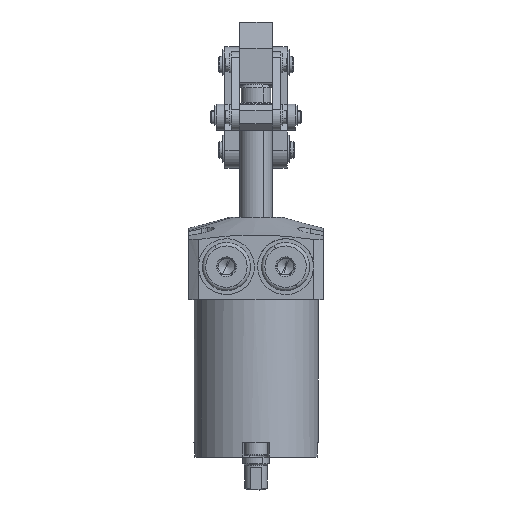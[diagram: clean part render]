
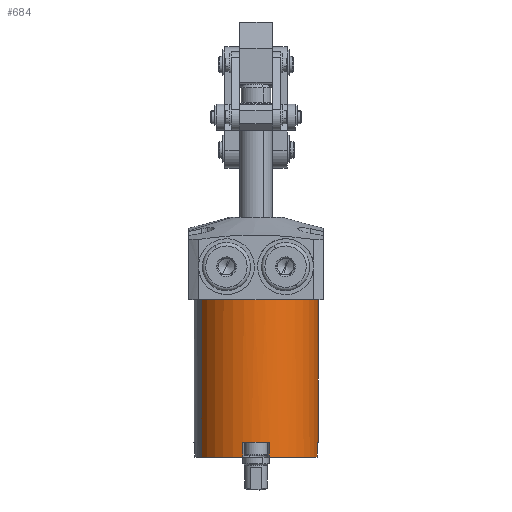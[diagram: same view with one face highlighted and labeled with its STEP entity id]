
A CAD part, left-side view. The second image highlights one B-rep face of the part: STEP entity #684.
In plain terms, the highlighted cylindrical face has radius 19 mm (diameter 38 mm), a partial arc.
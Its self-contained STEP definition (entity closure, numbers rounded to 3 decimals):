
#81=CARTESIAN_POINT('Vertex',(-18.574,4.,4.5)) ;
#84=CARTESIAN_POINT('Line Origine',(-18.574,4.,2.25)) ;
#88=CARTESIAN_POINT('Vertex',(-18.574,4.,0.)) ;
#114=CARTESIAN_POINT('Vertex',(-18.574,-4.,4.5)) ;
#128=CARTESIAN_POINT('Vertex',(-18.574,-4.,0.)) ;
#131=CARTESIAN_POINT('Line Origine',(-18.574,-4.,2.25)) ;
#209=CARTESIAN_POINT('Vertex',(9.109,-16.674,48.)) ;
#211=CARTESIAN_POINT('Vertex',(-9.109,16.674,48.)) ;
#214=CARTESIAN_POINT('Axis2P3D Location',(0.,0.,48.)) ;
#596=CARTESIAN_POINT('Axis2P3D Location',(0.,0.,4.5)) ;
#613=CARTESIAN_POINT('Axis2P3D Location',(0.,0.,24.)) ;
#618=CARTESIAN_POINT('Line Origine',(-4.,-18.574,24.)) ;
#622=CARTESIAN_POINT('Vertex',(-4.,-18.574,0.)) ;
#624=CARTESIAN_POINT('Vertex',(-4.,-18.574,4.5)) ;
#627=CARTESIAN_POINT('Axis2P3D Location',(0.,0.,4.5)) ;
#631=CARTESIAN_POINT('Vertex',(4.,-18.574,4.5)) ;
#634=CARTESIAN_POINT('Line Origine',(4.,-18.574,24.)) ;
#638=CARTESIAN_POINT('Vertex',(4.,-18.574,0.)) ;
#641=CARTESIAN_POINT('Axis2P3D Location',(0.,0.,0.)) ;
#645=CARTESIAN_POINT('Vertex',(9.109,-16.674,0.)) ;
#648=CARTESIAN_POINT('Line Origine',(9.109,-16.674,24.)) ;
#653=CARTESIAN_POINT('Line Origine',(-9.109,16.674,24.)) ;
#657=CARTESIAN_POINT('Vertex',(-9.109,16.674,0.)) ;
#660=CARTESIAN_POINT('Axis2P3D Location',(0.,0.,0.)) ;
#665=CARTESIAN_POINT('Axis2P3D Location',(0.,0.,0.)) ;
#85=DIRECTION('Vector Direction',(0.,0.,-1.)) ;
#132=DIRECTION('Vector Direction',(0.,0.,-1.)) ;
#215=DIRECTION('Axis2P3D Direction',(0.,0.,1.)) ;
#597=DIRECTION('Axis2P3D Direction',(0.,-0.,1.)) ;
#614=DIRECTION('Axis2P3D Direction',(0.,0.,1.)) ;
#615=DIRECTION('Axis2P3D XDirection',(-0.479,0.878,0.)) ;
#619=DIRECTION('Vector Direction',(0.,0.,1.)) ;
#628=DIRECTION('Axis2P3D Direction',(0.,0.,1.)) ;
#635=DIRECTION('Vector Direction',(0.,0.,1.)) ;
#642=DIRECTION('Axis2P3D Direction',(0.,0.,1.)) ;
#649=DIRECTION('Vector Direction',(0.,0.,1.)) ;
#654=DIRECTION('Vector Direction',(0.,0.,1.)) ;
#661=DIRECTION('Axis2P3D Direction',(0.,0.,1.)) ;
#666=DIRECTION('Axis2P3D Direction',(0.,0.,1.)) ;
#216=AXIS2_PLACEMENT_3D('Circle Axis2P3D',#214,#215,$) ;
#598=AXIS2_PLACEMENT_3D('Circle Axis2P3D',#596,#597,$) ;
#616=AXIS2_PLACEMENT_3D('Cylinder Axis2P3D',#613,#614,#615) ;
#629=AXIS2_PLACEMENT_3D('Circle Axis2P3D',#627,#628,$) ;
#643=AXIS2_PLACEMENT_3D('Circle Axis2P3D',#641,#642,$) ;
#662=AXIS2_PLACEMENT_3D('Circle Axis2P3D',#660,#661,$) ;
#667=AXIS2_PLACEMENT_3D('Circle Axis2P3D',#665,#666,$) ;
#671=ORIENTED_EDGE('',*,*,#626,.T.) ;
#672=ORIENTED_EDGE('',*,*,#633,.T.) ;
#673=ORIENTED_EDGE('',*,*,#640,.F.) ;
#674=ORIENTED_EDGE('',*,*,#647,.T.) ;
#675=ORIENTED_EDGE('',*,*,#652,.T.) ;
#676=ORIENTED_EDGE('',*,*,#218,.F.) ;
#677=ORIENTED_EDGE('',*,*,#659,.F.) ;
#678=ORIENTED_EDGE('',*,*,#664,.T.) ;
#679=ORIENTED_EDGE('',*,*,#90,.F.) ;
#680=ORIENTED_EDGE('',*,*,#600,.T.) ;
#681=ORIENTED_EDGE('',*,*,#135,.T.) ;
#682=ORIENTED_EDGE('',*,*,#669,.T.) ;
#86=VECTOR('Line Direction',#85,1.) ;
#133=VECTOR('Line Direction',#132,1.) ;
#620=VECTOR('Line Direction',#619,1.) ;
#636=VECTOR('Line Direction',#635,1.) ;
#650=VECTOR('Line Direction',#649,1.) ;
#655=VECTOR('Line Direction',#654,1.) ;
#684=ADVANCED_FACE('PartBody',(#683),#617,.T.) ;
#217=CIRCLE('generated circle',#216,19.) ;
#599=CIRCLE('generated circle',#598,19.) ;
#630=CIRCLE('generated circle',#629,19.) ;
#644=CIRCLE('generated circle',#643,19.) ;
#663=CIRCLE('generated circle',#662,19.) ;
#668=CIRCLE('generated circle',#667,19.) ;
#617=CYLINDRICAL_SURFACE('generated cylinder',#616,19.) ;
#90=EDGE_CURVE('',#82,#89,#87,.T.) ;
#135=EDGE_CURVE('',#115,#129,#134,.T.) ;
#218=EDGE_CURVE('',#212,#210,#217,.T.) ;
#600=EDGE_CURVE('',#82,#115,#599,.T.) ;
#626=EDGE_CURVE('',#623,#625,#621,.T.) ;
#633=EDGE_CURVE('',#625,#632,#630,.T.) ;
#640=EDGE_CURVE('',#639,#632,#637,.T.) ;
#647=EDGE_CURVE('',#639,#646,#644,.T.) ;
#652=EDGE_CURVE('',#646,#210,#651,.T.) ;
#659=EDGE_CURVE('',#658,#212,#656,.T.) ;
#664=EDGE_CURVE('',#658,#89,#663,.T.) ;
#669=EDGE_CURVE('',#129,#623,#668,.T.) ;
#670=EDGE_LOOP('',(#671,#672,#673,#674,#675,#676,#677,#678,#679,#680,#681,#682)) ;
#683=FACE_OUTER_BOUND('',#670,.T.) ;
#87=LINE('Line',#84,#86) ;
#134=LINE('Line',#131,#133) ;
#621=LINE('Line',#618,#620) ;
#637=LINE('Line',#634,#636) ;
#651=LINE('Line',#648,#650) ;
#656=LINE('Line',#653,#655) ;
#82=VERTEX_POINT('',#81) ;
#89=VERTEX_POINT('',#88) ;
#115=VERTEX_POINT('',#114) ;
#129=VERTEX_POINT('',#128) ;
#210=VERTEX_POINT('',#209) ;
#212=VERTEX_POINT('',#211) ;
#623=VERTEX_POINT('',#622) ;
#625=VERTEX_POINT('',#624) ;
#632=VERTEX_POINT('',#631) ;
#639=VERTEX_POINT('',#638) ;
#646=VERTEX_POINT('',#645) ;
#658=VERTEX_POINT('',#657) ;
